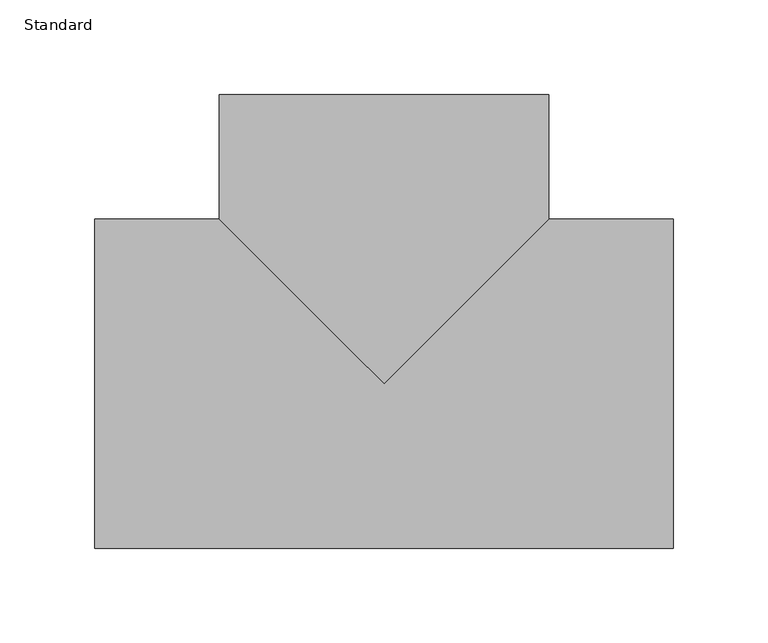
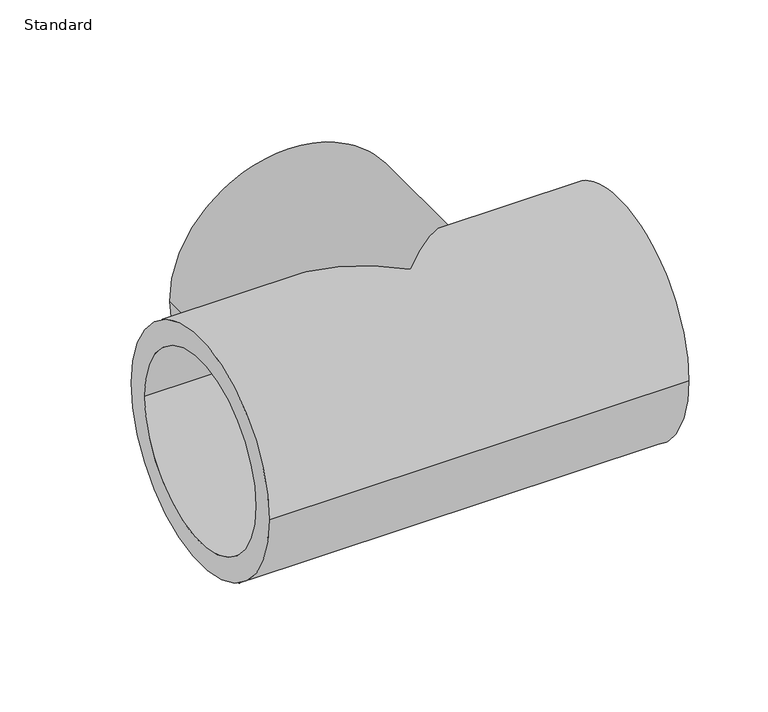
"""IFC4 building model written with IfcOpenShell, lengths in millimetres: pipe fitting geometry, Durapipe_PipeFitting_PVC_Tee90degEqual : Standard."""

from ifc_helpers import new_model, si_unit, frame, origin, place, context, project, spatial, polyline, circle_curve, ellipse_curve, source, transform, mapped, element, save
from ifc_brep_helpers import plane_surface, cylinder_surface, revolved_surface, advanced_brep


def standard_6c07f169(model_context):
    return source(origin(), model_context, "Body", "AdvancedBrep", [
        advanced_brep(
        [(-87.0, 153.0, 0.0), (87.0, 153.0, 0.0), (-70.0, 153.0, 0.0), (70.0, 153.0, 0.0), (-87.0, 87.0, 0.0), (0.0, 0.0, 87.0), (87.0, 87.0, 0.0), (0.0, 0.0, -87.0), (-153.0, -87.0, 0.0), (-153.0, 87.0, 0.0), (-153.0, -70.0, 0.0), (-153.0, 70.0, 0.0), (153.0, -87.0, 0.0), (153.0, 87.0, 0.0), (153.0, 70.0, 0.0), (153.0, -70.0, 0.0), (70.0, 77.0, 0.0), (-70.0, 77.0, 0.0), (0.0, 77.0, 0.0), (77.0, -70.0, 0.0), (77.0, 70.0, 0.0), (77.0, 0.0, 0.0), (-77.0, -70.0, 0.0), (-77.0, 70.0, 0.0), (-77.0, 0.0, 0.0)],
        [
            (0, 1, circle_curve(frame((0.0, 153.0, 0.0), z_axis=(0.0, 1.0, 0.0), x_axis=(1.0, 0.0, 0.0)), 87.0)),
            (1, 0, circle_curve(frame((0.0, 153.0, 0.0), z_axis=(0.0, 1.0, 0.0), x_axis=(1.0, 0.0, 0.0)), 87.0)),
            (2, 3, circle_curve(frame((0.0, 153.0, 0.0), z_axis=(0.0, -1.0, 0.0), x_axis=(-1.0, 0.0, 0.0)), 70.0)),
            (3, 2, circle_curve(frame((0.0, 153.0, 0.0), z_axis=(0.0, -1.0, 0.0), x_axis=(-1.0, 0.0, 0.0)), 70.0)),
            (0, 4),
            (4, 5, ellipse_curve(frame((0.0, 0.0, 0.0), z_axis=(0.7071067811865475, 0.7071067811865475, 0.0), x_axis=(-0.7071067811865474, 0.7071067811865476, 0.0)), 123.0365799, 87.0)),
            (5, 6, ellipse_curve(frame((0.0, 0.0, 0.0), z_axis=(-0.7071067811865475, 0.7071067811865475, 0.0), x_axis=(0.7071067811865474, 0.7071067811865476, 0.0)), 123.0365799, 87.0)),
            (6, 1),
            (6, 7, ellipse_curve(frame((0.0, 0.0, 0.0), z_axis=(-0.7071067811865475, 0.7071067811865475, 0.0), x_axis=(0.7071067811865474, 0.7071067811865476, 0.0)), 123.0365799, 87.0)),
            (7, 4, ellipse_curve(frame((0.0, 0.0, 0.0), z_axis=(0.7071067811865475, 0.7071067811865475, 0.0), x_axis=(-0.7071067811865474, 0.7071067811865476, 0.0)), 123.0365799, 87.0)),
            (8, 9, circle_curve(frame((-153.0, 0.0, 0.0), z_axis=(-1.0, 0.0, 0.0), x_axis=(0.0, 1.0, 0.0)), 87.0)),
            (9, 8, circle_curve(frame((-153.0, 0.0, 0.0), z_axis=(-1.0, 0.0, 0.0), x_axis=(0.0, 1.0, 0.0)), 87.0)),
            (10, 11, circle_curve(frame((-153.0, 0.0, 0.0), z_axis=(1.0, 0.0, 0.0), x_axis=(0.0, 1.0, 0.0)), 70.0)),
            (11, 10, circle_curve(frame((-153.0, 0.0, 0.0), z_axis=(1.0, 0.0, 0.0), x_axis=(0.0, 1.0, 0.0)), 70.0)),
            (12, 13, circle_curve(frame((153.0, 0.0, 0.0), z_axis=(1.0, 0.0, 0.0), x_axis=(0.0, 1.0, 0.0)), 87.0)),
            (13, 12, circle_curve(frame((153.0, 0.0, 0.0), z_axis=(1.0, 0.0, 0.0), x_axis=(0.0, 1.0, 0.0)), 87.0)),
            (14, 15, circle_curve(frame((153.0, 0.0, 0.0), z_axis=(-1.0, 0.0, 0.0), x_axis=(0.0, 1.0, 0.0)), 70.0)),
            (15, 14, circle_curve(frame((153.0, 0.0, 0.0), z_axis=(-1.0, 0.0, 0.0), x_axis=(0.0, 1.0, 0.0)), 70.0)),
            (8, 12),
            (13, 6),
            (4, 9),
            (16, 3),
            (2, 17),
            (17, 16, circle_curve(frame((0.0, 77.0, 0.0), z_axis=(0.0, -1.0, 0.0), x_axis=(-1.0, 0.0, 0.0)), 70.0)),
            (16, 17, circle_curve(frame((0.0, 77.0, 0.0), z_axis=(0.0, -1.0, 0.0), x_axis=(-1.0, 0.0, 0.0)), 70.0)),
            (17, 18),
            (18, 16),
            (19, 15),
            (14, 20),
            (20, 19, circle_curve(frame((77.0, 0.0, 0.0), z_axis=(-1.0, 0.0, 0.0), x_axis=(0.0, 1.0, 0.0)), 70.0)),
            (19, 20, circle_curve(frame((77.0, 0.0, 0.0), z_axis=(-1.0, 0.0, 0.0), x_axis=(0.0, 1.0, 0.0)), 70.0)),
            (20, 21),
            (21, 19),
            (10, 22),
            (22, 23, circle_curve(frame((-77.0, 0.0, 0.0), z_axis=(1.0, 0.0, 0.0), x_axis=(0.0, 1.0, 0.0)), 70.0)),
            (23, 11),
            (23, 22, circle_curve(frame((-77.0, 0.0, 0.0), z_axis=(1.0, 0.0, 0.0), x_axis=(0.0, 1.0, 0.0)), 70.0)),
            (22, 24),
            (24, 23),
        ],
        [
            plane_surface(frame((0.0, 153.0, 0.0), z_axis=(0.0, 1.0, 0.0), x_axis=(0.0, 0.0, 1.0))),
            cylinder_surface(frame((0.0, 153.0, 0.0), z_axis=(0.0, 1.0, 0.0), x_axis=(1.0, 0.0, 0.0)), 87.0),
            plane_surface(frame((-153.0, 0.0, 0.0), z_axis=(-1.0, 0.0, 0.0), x_axis=(0.0, 0.0, 1.0))),
            plane_surface(frame((153.0, 0.0, 0.0), z_axis=(1.0, 0.0, 0.0), x_axis=(0.0, 0.0, 1.0))),
            cylinder_surface(frame((-153.0, 0.0, 0.0), z_axis=(-1.0, 0.0, 0.0), x_axis=(0.0, 1.0, 0.0)), 87.0),
            revolved_surface(polyline([(-70.0, 77.0, 0.0), (-70.0, 153.0, 0.0)]), (0.0, 2128.0, 0.0), (0.0, -1.0, 0.0)),
            plane_surface(frame((0.0, 77.0, 0.0), z_axis=(0.0, 1.0, 0.0), x_axis=(-1.0, 0.0, 0.0))),
            revolved_surface(polyline([(77.0, 70.0, 0.0), (153.0, 70.0, 0.0)]), (2129.5, 0.0, 0.0), (-1.0, 0.0, 0.0)),
            plane_surface(frame((77.0, 0.0, 0.0), z_axis=(1.0, 0.0, 0.0), x_axis=(0.0, 1.0, 0.0))),
            revolved_surface(polyline([(-153.0, 70.0, 0.0), (-77.0, 70.0, 0.0)]), (2129.5, 0.0, 0.0), (-1.0, 0.0, 0.0)),
            plane_surface(frame((-77.0, 0.0, 0.0), z_axis=(-1.0, 0.0, 0.0), x_axis=(0.0, 1.0, 0.0))),
        ],
        [
            (0, [[1, 2], [3, 4]]),
            (1, [[-1, 5, 6, 7, 8]]),
            (1, [[-2, -8, 9, 10, -5]]),
            (2, [[11, 12], [13, 14]]),
            (3, [[15, 16], [17, 18]]),
            (4, [[-11, 19, -16, 20, -7, -6, 21]]),
            (4, [[-12, -21, -10, -9, -20, -15, -19]]),
            (5, [[22, -3, 23, 24]]),
            (5, [[-22, 25, -23, -4]]),
            (6, [[-24, 26, 27]]),
            (6, [[-25, -27, -26]]),
            (7, [[28, -17, 29, 30]]),
            (7, [[-28, 31, -29, -18]]),
            (8, [[-30, 32, 33]]),
            (8, [[-31, -33, -32]]),
            (9, [[34, 35, 36, -13]]),
            (9, [[-34, -14, -36, 37]]),
            (10, [[-35, 38, 39]]),
            (10, [[-37, -39, -38]]),
        ],
    ),
    ])


if __name__ == "__main__":
    model = new_model("IFC4")
    model_context = context("Model", 3, world=origin())
    ifc_project = project(units=[si_unit("LENGTHUNIT", "METRE", prefix="MILLI")], contexts=[model_context])
    site = spatial("IfcSite", under=ifc_project)
    building = spatial("IfcBuilding", under=site)
    placement = place(None, origin())
    standard_shape = standard_6c07f169(model_context)
    element("IfcPipeFitting", 1, ObjectType="Durapipe_PipeFitting_PVC_Tee90degEqual : Standard", at=placement, inside=building, context=model_context, shape_type="MappedRepresentation", body=[
        mapped(standard_shape, transform((0.0, 0.0, 0.0), x_axis=(1.0, 0.0, 0.0), y_axis=(0.0, 1.0, 0.0), z_axis=(0.0, 0.0, 1.0))),
    ])
    save(model, "model.ifc")
